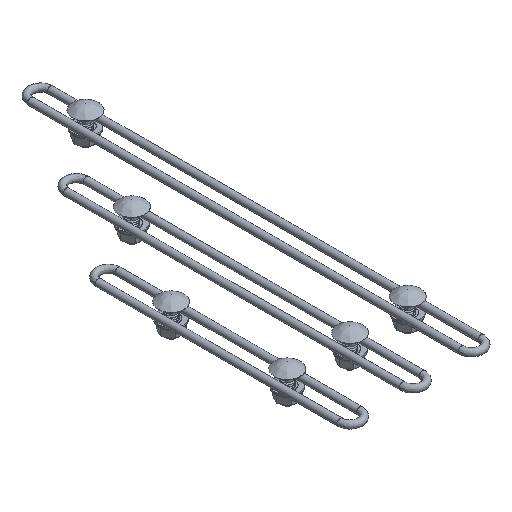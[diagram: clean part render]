
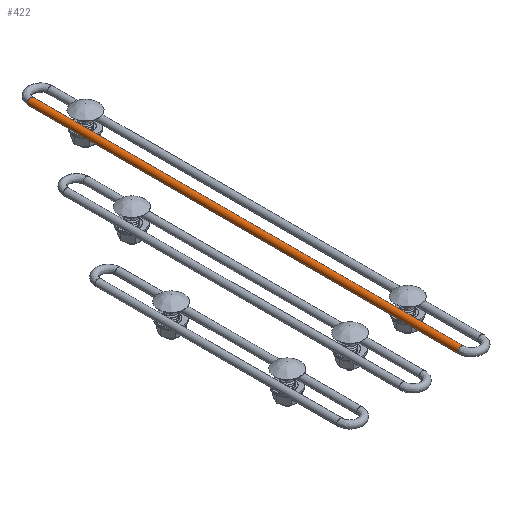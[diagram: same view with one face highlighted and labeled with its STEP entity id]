
A CAD part, isometric view. The second image highlights one B-rep face of the part: STEP entity #422.
In plain terms, the highlighted cylindrical face has radius 1.75 mm (diameter 3.5 mm), a full revolution.
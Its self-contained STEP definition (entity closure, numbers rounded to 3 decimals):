
#422=ADVANCED_FACE('',(#782),#5776,.T.);
#782=FACE_OUTER_BOUND('',#1160,.T.);
#1160=EDGE_LOOP('',(#2957,#2958,#2959,#2960));
#2957=ORIENTED_EDGE('',*,*,#3908,.F.);
#2958=ORIENTED_EDGE('',*,*,#3906,.T.);
#2959=ORIENTED_EDGE('',*,*,#3907,.F.);
#2960=ORIENTED_EDGE('',*,*,#3906,.F.);
#3906=EDGE_CURVE('',#5463,#5464,#4848,.T.);
#3907=EDGE_CURVE('',#5464,#5464,#4849,.T.);
#3908=EDGE_CURVE('',#5463,#5463,#4850,.T.);
#4848=(
BOUNDED_CURVE()
B_SPLINE_CURVE(3,(#50401,#50402,#50403,#50404),.UNSPECIFIED.,.F.,.F.)
B_SPLINE_CURVE_WITH_KNOTS((4,4),(0.,228.),.UNSPECIFIED.)
CURVE()
GEOMETRIC_REPRESENTATION_ITEM()
RATIONAL_B_SPLINE_CURVE((1.,1.,1.,1.))
REPRESENTATION_ITEM('')
);
#4849=(
BOUNDED_CURVE()
B_SPLINE_CURVE(2,(#50405,#50406,#50407,#50408,#50409,#50410,#50411,#50412,
#50413),.UNSPECIFIED.,.T.,.F.)
B_SPLINE_CURVE_WITH_KNOTS((3,2,2,2,3),(0.,2.749,5.498,
8.247,10.996),.UNSPECIFIED.)
CURVE()
GEOMETRIC_REPRESENTATION_ITEM()
RATIONAL_B_SPLINE_CURVE((1.,0.707,1.,0.707,1.,0.707,
1.,0.707,1.))
REPRESENTATION_ITEM('')
);
#4850=(
BOUNDED_CURVE()
B_SPLINE_CURVE(2,(#50414,#50415,#50416,#50417,#50418,#50419,#50420,#50421,
#50422),.UNSPECIFIED.,.T.,.F.)
B_SPLINE_CURVE_WITH_KNOTS((3,2,2,2,3),(-10.996,-8.247,
-5.498,-2.749,0.),.UNSPECIFIED.)
CURVE()
GEOMETRIC_REPRESENTATION_ITEM()
RATIONAL_B_SPLINE_CURVE((1.,0.707,1.,0.707,1.,0.707,
1.,0.707,1.))
REPRESENTATION_ITEM('')
);
#5463=VERTEX_POINT('',#50377);
#5464=VERTEX_POINT('',#50378);
#5776=CYLINDRICAL_SURFACE('',#6038,1.75);
#6038=AXIS2_PLACEMENT_3D('',#50284,#6217,$);
#6217=DIRECTION('',(0.,-1.,0.));
#50284=CARTESIAN_POINT('',(-5.25,0.,0.));
#50377=CARTESIAN_POINT('',(-3.5,114.,0.));
#50378=CARTESIAN_POINT('',(-3.5,-114.,0.));
#50401=CARTESIAN_POINT('',(-3.5,114.,0.));
#50402=CARTESIAN_POINT('',(-3.5,38.,0.));
#50403=CARTESIAN_POINT('',(-3.5,-38.,0.));
#50404=CARTESIAN_POINT('',(-3.5,-114.,0.));
#50405=CARTESIAN_POINT('',(-3.5,-114.,0.));
#50406=CARTESIAN_POINT('',(-3.5,-114.,1.75));
#50407=CARTESIAN_POINT('',(-5.25,-114.,1.75));
#50408=CARTESIAN_POINT('',(-7.,-114.,1.75));
#50409=CARTESIAN_POINT('',(-7.,-114.,0.));
#50410=CARTESIAN_POINT('',(-7.,-114.,-1.75));
#50411=CARTESIAN_POINT('',(-5.25,-114.,-1.75));
#50412=CARTESIAN_POINT('',(-3.5,-114.,-1.75));
#50413=CARTESIAN_POINT('',(-3.5,-114.,0.));
#50414=CARTESIAN_POINT('',(-3.5,114.,0.));
#50415=CARTESIAN_POINT('',(-3.5,114.,-1.75));
#50416=CARTESIAN_POINT('',(-5.25,114.,-1.75));
#50417=CARTESIAN_POINT('',(-7.,114.,-1.75));
#50418=CARTESIAN_POINT('',(-7.,114.,0.));
#50419=CARTESIAN_POINT('',(-7.,114.,1.75));
#50420=CARTESIAN_POINT('',(-5.25,114.,1.75));
#50421=CARTESIAN_POINT('',(-3.5,114.,1.75));
#50422=CARTESIAN_POINT('',(-3.5,114.,0.));
